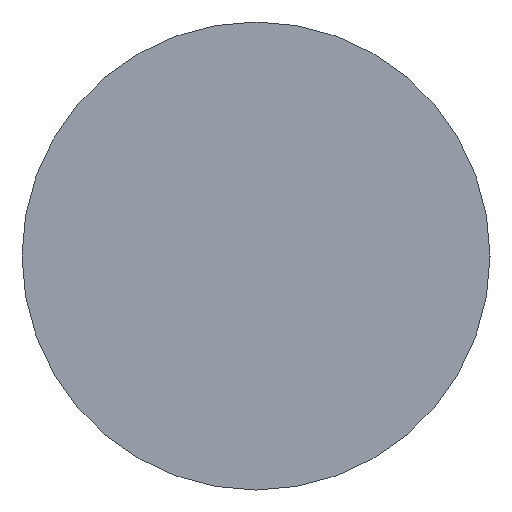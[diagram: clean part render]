
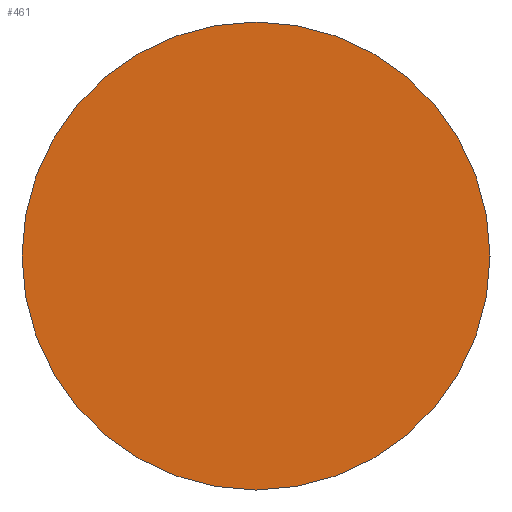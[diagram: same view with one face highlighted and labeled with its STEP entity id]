
A CAD part, left-side view. The second image highlights one B-rep face of the part: STEP entity #461.
In plain terms, the highlighted planar face has unit normal (-1, 0, 0).
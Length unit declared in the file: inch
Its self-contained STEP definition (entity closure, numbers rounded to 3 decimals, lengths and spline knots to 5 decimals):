
#109=FACE_OUTER_BOUND('',#143,.T.);
#143=EDGE_LOOP('',(#375,#376));
#182=CIRCLE('',#518,0.375);
#183=CIRCLE('',#520,0.375);
#220=VERTEX_POINT('',#843);
#221=VERTEX_POINT('',#845);
#277=EDGE_CURVE('',#220,#221,#182,.T.);
#279=EDGE_CURVE('',#220,#221,#183,.T.);
#375=ORIENTED_EDGE('',*,*,#279,.T.);
#376=ORIENTED_EDGE('',*,*,#277,.F.);
#435=PLANE('',#521);
#461=ADVANCED_FACE('',(#109),#435,.F.);
#518=AXIS2_PLACEMENT_3D('',#846,#627,#628);
#520=AXIS2_PLACEMENT_3D('',#849,#632,#633);
#521=AXIS2_PLACEMENT_3D('',#850,#634,#635);
#627=DIRECTION('center_axis',(1.,0.,0.));
#628=DIRECTION('ref_axis',(0.,1.,0.));
#632=DIRECTION('center_axis',(-1.,0.,0.));
#633=DIRECTION('ref_axis',(0.,1.,0.));
#634=DIRECTION('center_axis',(1.,0.,0.));
#635=DIRECTION('ref_axis',(0.,-1.,0.));
#843=CARTESIAN_POINT('',(-0.81,0.375,0.));
#845=CARTESIAN_POINT('',(-0.81,-0.375,0.));
#846=CARTESIAN_POINT('Origin',(-0.81,0.,0.));
#849=CARTESIAN_POINT('Origin',(-0.81,0.,0.));
#850=CARTESIAN_POINT('Origin',(-0.81,0.,0.));
